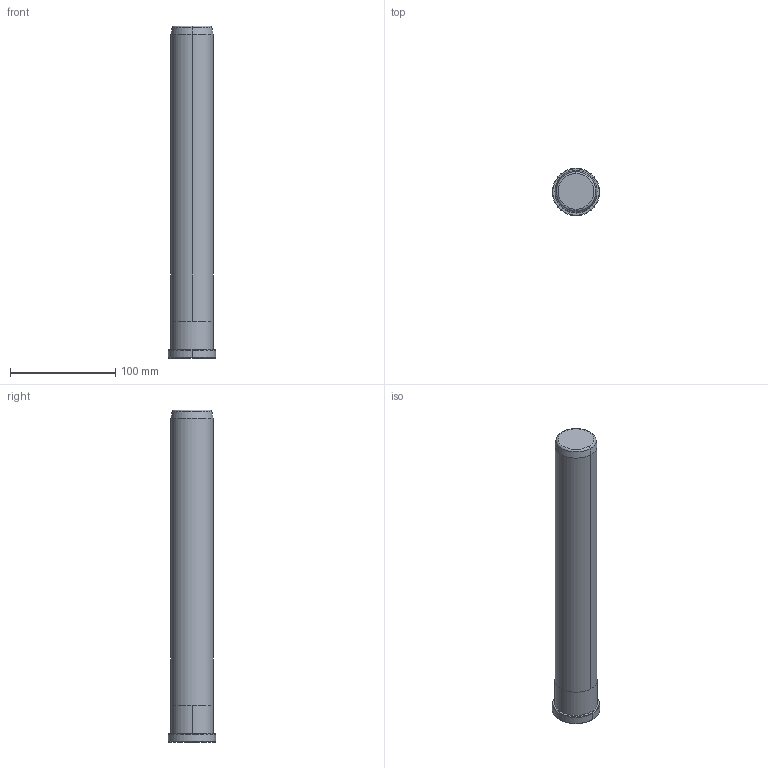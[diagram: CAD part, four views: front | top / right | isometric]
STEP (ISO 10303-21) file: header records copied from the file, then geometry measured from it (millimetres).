
FILE_DESCRIPTION((''),'2;1');
FILE_NAME('B80840315','2018-01-06T',('MANU'),(''),'PRO/ENGINEER BY PARAMETRIC TECHNOLOGY CORPORATION, 2012130','PRO/ENGINEER BY PARAMETRIC TECHNOLOGY CORPORATION, 2012130','');
FILE_SCHEMA(('CONFIG_CONTROL_DESIGN'));
Length unit declared in the file: millimetre
Products named in the file (1): B80840315
Bounding box: 45 x 45 x 315 mm (x, y, z)
Volume: 397752.7 mm3; surface area: 42550.1 mm2
Topology: 1 solids, 1 shells, 18 faces, 34 edges, 20 vertices
Faces by surface type: cone 6, cylinder 6, plane 4, torus 2
Entity records: 494 total; most frequent: DIRECTION 92, CARTESIAN_POINT 72, ORIENTED_EDGE 68, AXIS2_PLACEMENT_3D 40, EDGE_CURVE 34, CIRCLE 22, VERTEX_POINT 20, EDGE_LOOP 20
